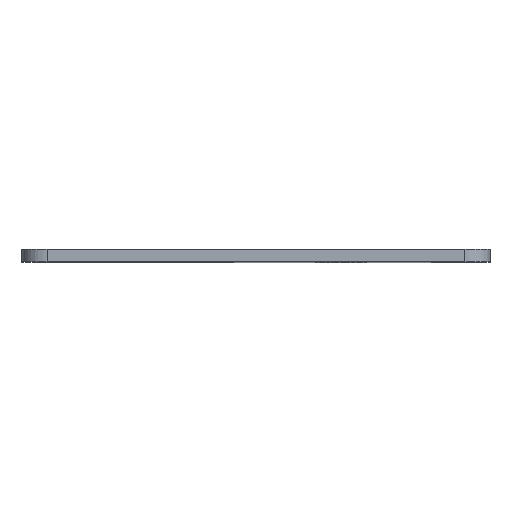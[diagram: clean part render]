
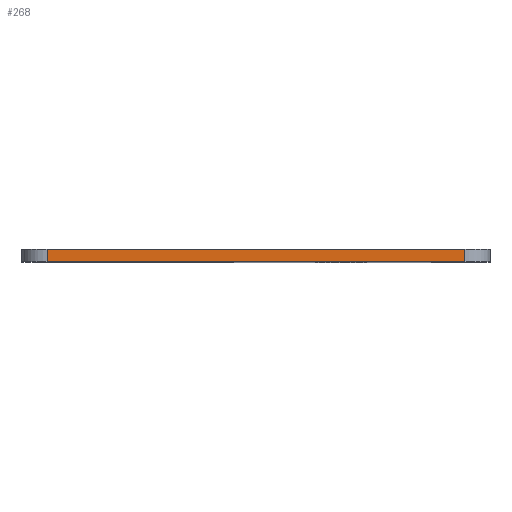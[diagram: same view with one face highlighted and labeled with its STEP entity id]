
A CAD part, top view. The second image highlights one B-rep face of the part: STEP entity #268.
In plain terms, the highlighted planar face has unit normal (0, 0, 1).
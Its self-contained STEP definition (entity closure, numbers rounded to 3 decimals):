
#1 = DIRECTION ( 'NONE',  ( 0., 1., 0. ) ) ;
#8 = ORIENTED_EDGE ( 'NONE', *, *, #546, .F. ) ;
#30 = ORIENTED_EDGE ( 'NONE', *, *, #291, .T. ) ;
#46 = DIRECTION ( 'NONE',  ( 1., 0., 0. ) ) ;
#72 = VERTEX_POINT ( 'NONE', #312 ) ;
#101 = LINE ( 'NONE', #337, #374 ) ;
#109 = DIRECTION ( 'NONE',  ( 0., 0., 1. ) ) ;
#118 = EDGE_CURVE ( 'NONE', #72, #451, #501, .T. ) ;
#154 = VECTOR ( 'NONE', #306, 1000. ) ;
#212 = DIRECTION ( 'NONE',  ( 0., 1., 0. ) ) ;
#217 = AXIS2_PLACEMENT_3D ( 'NONE', #489, #109, #728 ) ;
#247 = CARTESIAN_POINT ( 'NONE',  ( 50.896, 0., 13.813 ) ) ;
#268 = ADVANCED_FACE ( 'NONE', ( #450 ), #429, .T. ) ;
#273 = CARTESIAN_POINT ( 'NONE',  ( 118.771, 0., 13.813 ) ) ;
#276 = VECTOR ( 'NONE', #46, 1000. ) ;
#291 = EDGE_CURVE ( 'NONE', #451, #673, #417, .T. ) ;
#306 = DIRECTION ( 'NONE',  ( 1., 0., 0. ) ) ;
#312 = CARTESIAN_POINT ( 'NONE',  ( 50.896, 0., 13.813 ) ) ;
#337 = CARTESIAN_POINT ( 'NONE',  ( 50.896, 0., 13.813 ) ) ;
#374 = VECTOR ( 'NONE', #1, 1000. ) ;
#397 = EDGE_CURVE ( 'NONE', #641, #673, #710, .T. ) ;
#417 = LINE ( 'NONE', #273, #577 ) ;
#429 = PLANE ( 'NONE',  #217 ) ;
#450 = FACE_OUTER_BOUND ( 'NONE', #684, .T. ) ;
#451 = VERTEX_POINT ( 'NONE', #697 ) ;
#472 = CARTESIAN_POINT ( 'NONE',  ( 50.896, 2., 13.813 ) ) ;
#485 = CARTESIAN_POINT ( 'NONE',  ( 50.896, 2., 13.813 ) ) ;
#489 = CARTESIAN_POINT ( 'NONE',  ( 50.896, 0., 13.813 ) ) ;
#494 = ORIENTED_EDGE ( 'NONE', *, *, #397, .F. ) ;
#501 = LINE ( 'NONE', #247, #154 ) ;
#546 = EDGE_CURVE ( 'NONE', #72, #641, #101, .T. ) ;
#577 = VECTOR ( 'NONE', #212, 1000. ) ;
#621 = ORIENTED_EDGE ( 'NONE', *, *, #118, .T. ) ;
#641 = VERTEX_POINT ( 'NONE', #472 ) ;
#673 = VERTEX_POINT ( 'NONE', #702 ) ;
#684 = EDGE_LOOP ( 'NONE', ( #494, #8, #621, #30 ) ) ;
#697 = CARTESIAN_POINT ( 'NONE',  ( 118.771, 0., 13.813 ) ) ;
#702 = CARTESIAN_POINT ( 'NONE',  ( 118.771, 2., 13.813 ) ) ;
#710 = LINE ( 'NONE', #485, #276 ) ;
#728 = DIRECTION ( 'NONE',  ( 1., 0., 0. ) ) ;
